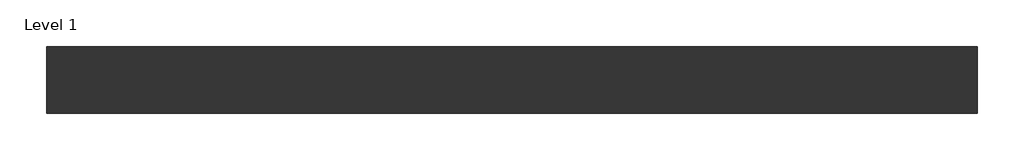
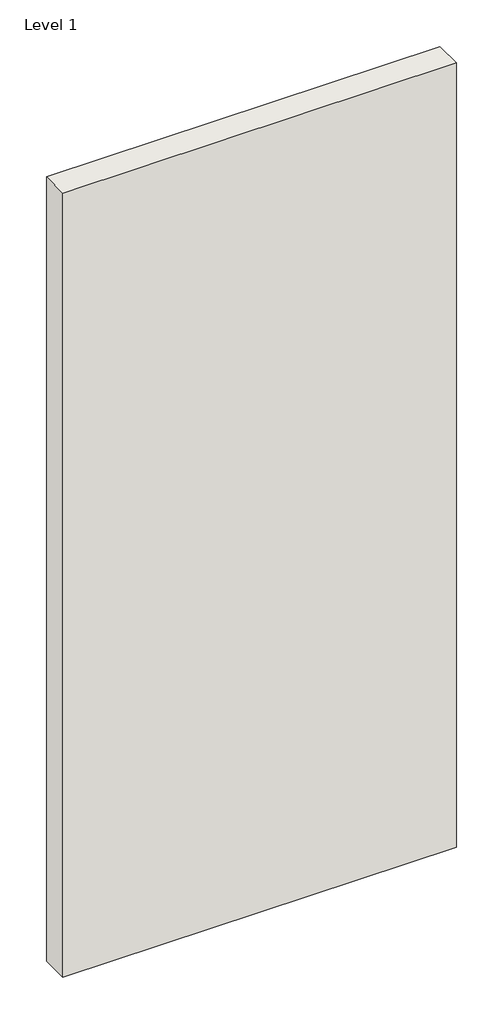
# One storey: 1 wall.
"""IFC4 building model written with IfcOpenShell, lengths in millimetres."""

from ifc_helpers import new_model, si_unit, origin, origin_with_axes, place, context, project, spatial, polyline, outline, extrude, element, save

model = new_model("IFC4")

# Units and contexts
model_context = context("Model", 3, world=origin())
ifc_project = project(units=[si_unit("LENGTHUNIT", "METRE", prefix="MILLI")], contexts=[model_context])

# Site, building, storey
site = spatial("IfcSite", under=ifc_project)
building = spatial("IfcBuilding", under=site)
storey = spatial("IfcBuildingStorey", under=building, Name="Level 1", Elevation=0.0)

# Wall
placement = place(None, origin())
element("IfcWall", 1, ObjectType="Interior-Steel Frame-Rondo Quiet Stud-CSR1133-136mm", at=placement, inside=storey, context=model_context, shape_type="SweptSolid", body=[
    extrude(outline(polyline([(-721.9017479, -586.3096525), (1178.0982521, -586.3096525), (1178.0982521, -722.3096525), (-721.9017479, -722.3096525), (-721.9017479, -586.3096525)])), origin_with_axes(), (0.0, 0.0, 1.0), 4000.0),
])

save(model, "model.ifc")
